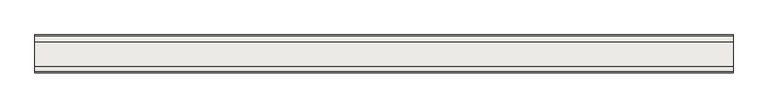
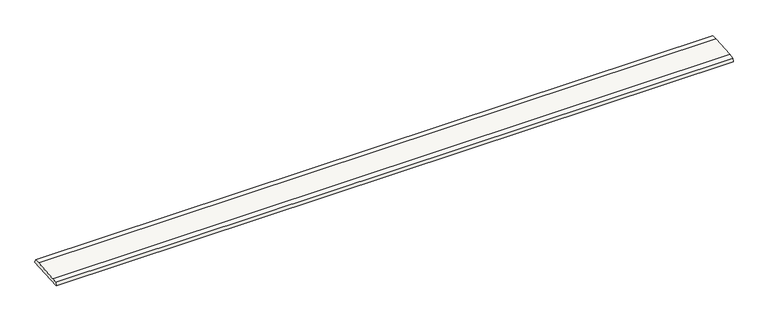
"""IFC4 building model written with IfcOpenShell, lengths in millimetres: slab geometry, ROSA GRES_245 FL : Rejilla 245 FL_Tresor_Java_Anti-Slip."""

import ifcopenshell
import ifcopenshell.guid

model = None  # the IFC model being written
_history = None  # IfcOwnerHistory: only IFC2X3 demands one
_inside = {}  # id of a spatial element -> (the spatial element, [elements in it])
_under = {}  # id of a project, library or spatial element -> (it, [spatial elements below it])
_declared = {}  # id of a project -> (the project, [libraries it declares])
_typed = {}  # id of a type object -> (the type object, [elements of that type])
_made_of = {}  # id of a material, layer set ... -> (it, [elements and type objects made of it])


def new_model(schema):
    """Start an empty IFC model of exactly this schema.

    Asked for "IFC4X3", IfcOpenShell would pick the latest addendum, in which some entities
    have other attributes; the version numbers below select the first issue.
    IFC2X3 requires an IfcOwnerHistory on every rooted entity: one is made here for all.
    """
    global model, _history
    if schema == "IFC4X3":
        model = ifcopenshell.file(schema_version=(4, 3, 0, 0))
    else:
        model = ifcopenshell.file(schema=schema)
    _inside.clear()
    _under.clear()
    _declared.clear()
    _typed.clear()
    _made_of.clear()
    _history = None
    if model.schema == "IFC2X3":
        org = make("IfcOrganization", Name="unknown")
        user = make(
            "IfcPersonAndOrganization",
            ThePerson=make("IfcPerson", FamilyName="unknown"),
            TheOrganization=org,
        )
        app = make(
            "IfcApplication",
            ApplicationDeveloper=org,
            Version="unknown",
            ApplicationFullName="unknown",
            ApplicationIdentifier="unknown",
        )
        _history = make(
            "IfcOwnerHistory",
            OwningUser=user,
            OwningApplication=app,
            ChangeAction="ADDED",
            CreationDate=0,
        )
    return model


def make(cls, **values):
    """One entity of the class cls with the attributes given. An attribute that is None is left unset."""
    return model.create_entity(
        cls, **{name: value for name, value in values.items() if value is not None}
    )


def rooted(cls, **values):
    """An entity with a GlobalId (a new one), such as an element, a storey or a relation."""
    return make(cls, GlobalId=ifcopenshell.guid.new(), OwnerHistory=_history, **values)


def si_unit(unit_type, name, prefix=None):
    """IfcSIUnit, for example si_unit("LENGTHUNIT", "METRE", prefix="MILLI")."""
    return make("IfcSIUnit", UnitType=unit_type, Prefix=prefix, Name=name)


def assignment(units):
    """IfcUnitAssignment: the units of a project."""
    return None if units is None else make("IfcUnitAssignment", Units=units)


def point(xyz):
    """IfcCartesianPoint."""
    return None if xyz is None else make("IfcCartesianPoint", Coordinates=xyz)


def direction(xyz):
    """IfcDirection."""
    return None if xyz is None else make("IfcDirection", DirectionRatios=xyz)


def frame(location, z_axis=None, x_axis=None):
    """IfcAxis2Placement3D, a coordinate frame: its origin and axes. An axis left out is left unset."""
    return make(
        "IfcAxis2Placement3D",
        Location=point(location),
        Axis=direction(z_axis),
        RefDirection=direction(x_axis),
    )


def frame_2d(location, x_axis=None):
    """IfcAxis2Placement2D, a coordinate frame in the plane: its origin and x axis."""
    return make(
        "IfcAxis2Placement2D", Location=point(location), RefDirection=direction(x_axis)
    )


def origin():
    """The frame at (0, 0, 0) with its axes left unset."""
    return frame((0.0, 0.0, 0.0))


def place(relative_to, where):
    """IfcLocalPlacement: puts the frame where relative to a parent placement (None: the world)."""
    return make(
        "IfcLocalPlacement", PlacementRelTo=relative_to, RelativePlacement=where
    )


def context(
    kind, dimensions, precision=None, world=None, true_north=None, identifier=None
):
    """IfcGeometricRepresentationContext, for example the 3D "Model" context."""
    return make(
        "IfcGeometricRepresentationContext",
        ContextIdentifier=identifier,
        ContextType=kind,
        CoordinateSpaceDimension=dimensions,
        Precision=precision,
        WorldCoordinateSystem=world,
        TrueNorth=true_north,
    )


def project(units=None, contexts=None):
    """IfcProject with its units and contexts."""
    return rooted(
        "IfcProject",
        Name="project",
        RepresentationContexts=contexts,
        UnitsInContext=assignment(units),
    )


def spatial(cls, under=None, at=None, **own):
    """A site, building, storey or space (cls), placed at a placement, below another one or the project."""
    s = rooted(cls, ObjectPlacement=at, **own)
    if under is not None:
        _under.setdefault(under.id(), (under, []))[1].append(s)
    return s


def polyline(points):
    """IfcPolyline through the points."""
    return make("IfcPolyline", Points=[point(p) for p in points])


def circle_curve(where, radius):
    """IfcCircle in the frame where."""
    return make("IfcCircle", Position=where, Radius=radius)


def trimmed(basis, trim1, trim2, sense, master):
    """IfcTrimmedCurve: the piece of a basis curve between two trims."""
    return make(
        "IfcTrimmedCurve",
        BasisCurve=basis,
        Trim1=trim1,
        Trim2=trim2,
        SenseAgreement=sense,
        MasterRepresentation=master,
    )


def segment(curve, same_sense, transition):
    """IfcCompositeCurveSegment."""
    return make(
        "IfcCompositeCurveSegment",
        Transition=transition,
        SameSense=same_sense,
        ParentCurve=curve,
    )


def composite_curve(segments, self_intersect=None):
    """IfcCompositeCurve: segments joined end to end."""
    return make("IfcCompositeCurve", Segments=segments, SelfIntersect=self_intersect)


def outline(outer, holes=None, kind="AREA"):
    """IfcArbitraryClosedProfileDef: a profile drawn as a closed curve; with holes, ...WithVoids."""
    if holes is None:
        return make("IfcArbitraryClosedProfileDef", ProfileType=kind, OuterCurve=outer)
    return make(
        "IfcArbitraryProfileDefWithVoids",
        ProfileType=kind,
        OuterCurve=outer,
        InnerCurves=holes,
    )


def extrude(swept, where, along, depth):
    """IfcExtrudedAreaSolid: the profile swept, set in the frame where, extruded along a direction by depth."""
    return make(
        "IfcExtrudedAreaSolid",
        SweptArea=swept,
        Position=where,
        ExtrudedDirection=direction(along),
        Depth=depth,
    )


def shape(context_of_items, identifier, shape_type, items):
    """IfcShapeRepresentation: the items that make up one representation, for example the "Body"."""
    return make(
        "IfcShapeRepresentation",
        ContextOfItems=context_of_items,
        RepresentationIdentifier=identifier,
        RepresentationType=shape_type,
        Items=items,
    )


def source(mapping_origin, context_of_items, identifier, shape_type, items):
    """IfcRepresentationMap: a shape defined once, which mapped items show again and again."""
    return make(
        "IfcRepresentationMap",
        MappingOrigin=mapping_origin,
        MappedRepresentation=shape(context_of_items, identifier, shape_type, items),
    )


def transform(
    local_origin,
    x_axis=None,
    y_axis=None,
    z_axis=None,
    scale=None,
    scale2=None,
    scale3=None,
    uniform=True,
):
    """IfcCartesianTransformationOperator3D, or its non-uniform kind. x_axis, y_axis, z_axis: its Axis1, 2, 3."""
    if uniform:
        return make(
            "IfcCartesianTransformationOperator3D",
            Axis1=direction(x_axis),
            Axis2=direction(y_axis),
            LocalOrigin=point(local_origin),
            Scale=scale,
            Axis3=direction(z_axis),
        )
    return make(
        "IfcCartesianTransformationOperator3DnonUniform",
        Axis1=direction(x_axis),
        Axis2=direction(y_axis),
        LocalOrigin=point(local_origin),
        Scale=scale,
        Axis3=direction(z_axis),
        Scale2=scale2,
        Scale3=scale3,
    )


def mapped(mapping_source, mapping_target):
    """IfcMappedItem: shows the shape of a source again, moved by a transform."""
    return make(
        "IfcMappedItem", MappingSource=mapping_source, MappingTarget=mapping_target
    )


def made_of(thing, what):
    """Note that an element or type object is made of a material, layer set ...; save() writes the relation."""
    if what is not None:
        _made_of.setdefault(what.id(), (what, []))[1].append(thing)
    return thing


def element(
    cls,
    number,
    at=None,
    inside=None,
    cuts=None,
    type_object=None,
    material=None,
    context=None,
    identifier="Body",
    shape_type=None,
    held_by="IfcProductDefinitionShape",
    body=None,
    shapes=None,
    **own,
):
    """One element of the class cls, such as IfcWall. Its Tag is "e" and its number.

    at: its placement. inside: the storey or other place that contains it. cuts: it is an
    opening in that element (IfcRelVoidsElement). A single representation is given by context,
    identifier, shape_type and body (its items); several are given by shapes. held_by: the class
    of the entity that holds the representations. save() writes the other relations.
    """
    e = rooted(cls, Tag="e%d" % number, ObjectPlacement=at, **own)
    if body is not None:
        shapes = [shape(context, identifier, shape_type, body)]
    if shapes is not None:
        e.Representation = make(held_by, Representations=shapes)
    if inside is not None:
        _inside.setdefault(inside.id(), (inside, []))[1].append(e)
    if cuts is not None:
        rooted(
            "IfcRelVoidsElement", RelatingBuildingElement=cuts, RelatedOpeningElement=e
        )
    if type_object is not None:
        _typed.setdefault(type_object.id(), (type_object, []))[1].append(e)
    return made_of(e, material)


def aggregate(whole, parts):
    """IfcRelAggregates: a whole, such as a stair, and the parts it consists of."""
    return rooted("IfcRelAggregates", RelatingObject=whole, RelatedObjects=parts)


def save(model, path):
    """Write the relations noted so far, then the file.

    IfcRelAggregates (storeys below a building ...), IfcRelContainedInSpatialStructure (elements
    in a storey), IfcRelDefinesByType, IfcRelAssociatesMaterial and IfcRelDeclares: one each for
    every whole, place, type object, material and project.
    """
    for whole, parts in _under.values():
        aggregate(whole, parts)
    for where, things in _inside.values():
        rooted(
            "IfcRelContainedInSpatialStructure",
            RelatedElements=things,
            RelatingStructure=where,
        )
    for kind, things in _typed.values():
        rooted("IfcRelDefinesByType", RelatedObjects=things, RelatingType=kind)
    for what, things in _made_of.values():
        rooted("IfcRelAssociatesMaterial", RelatedObjects=things, RelatingMaterial=what)
    for by, libraries in _declared.values():
        rooted("IfcRelDeclares", RelatingContext=by, RelatedDefinitions=libraries)
    model.write(path)


def slab_8bb5f8cc(model_context):
    return source(origin(), model_context, "Body", "SweptSolid", [
        extrude(outline(composite_curve([segment(polyline([(549.5004127, 244.3285715), (558.1409275, 222.9386957), (310.0, 202.7411783), (315.0453746, 225.1954084)]), True, "CONTINUOUS"), segment(trimmed(circle_curve(frame_2d((452.3998099, -483.1671462)), 721.556477), [point((315.0453746, 225.1954084))], [point((350.5656678, 231.1671992))], False, "CARTESIAN"), True, "CONTINUOUS"), segment(polyline([(350.5656678, 231.1671992), (513.9321982, 244.464475)]), True, "CONTINUOUS"), segment(trimmed(circle_curve(frame_2d((528.960151, -476.9354905)), 721.556477), [point((513.9321982, 244.464475))], [point((549.5004127, 244.3285715))], False, "CARTESIAN"), True, "CONTINUOUS")], self_intersect=False)), frame((0.0, 0.0, 0.0), z_axis=(1.0, 0.0, 0.0), x_axis=(0.0, 1.0, 0.0)), (0.0, 0.0, 1.0), 4590.0),
    ])


if __name__ == "__main__":
    model = new_model("IFC4")
    model_context = context("Model", 3, world=origin())
    ifc_project = project(units=[si_unit("LENGTHUNIT", "METRE", prefix="MILLI")], contexts=[model_context])
    site = spatial("IfcSite", under=ifc_project)
    building = spatial("IfcBuilding", under=site)
    placement = place(None, origin())
    slab_shape = slab_8bb5f8cc(model_context)
    element("IfcSlab", 1, ObjectType="ROSA GRES_245 FL : Rejilla 245 FL_Tresor_Java_Anti-Slip", at=placement, inside=building, context=model_context, shape_type="MappedRepresentation", body=[
        mapped(slab_shape, transform((0.0, 0.0, 0.0), x_axis=(1.0, 0.0, 0.0), y_axis=(0.0, 1.0, 0.0), z_axis=(0.0, 0.0, 1.0))),
    ])
    save(model, "model.ifc")
